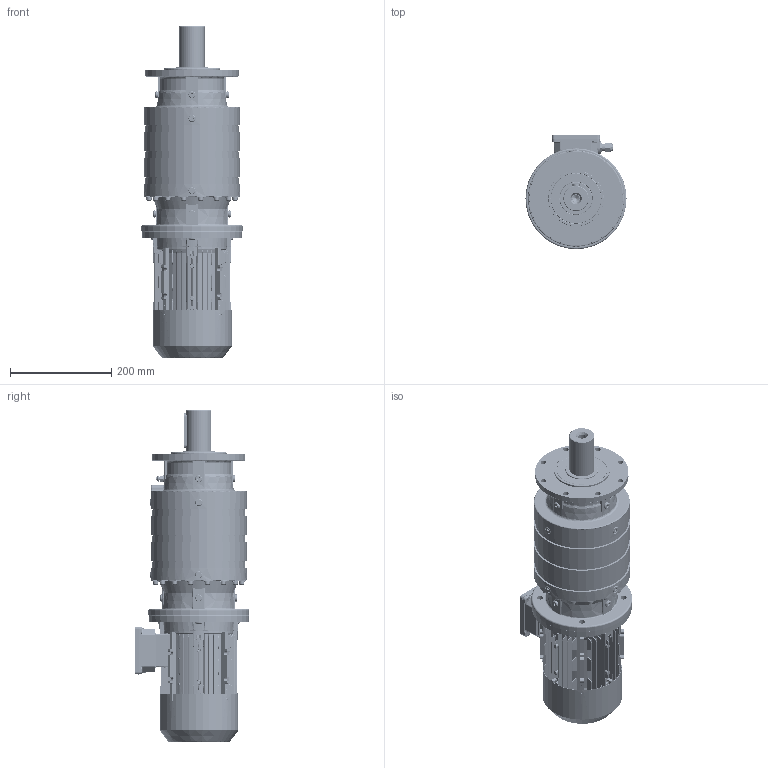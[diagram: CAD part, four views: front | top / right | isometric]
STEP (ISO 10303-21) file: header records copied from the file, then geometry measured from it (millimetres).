
FILE_DESCRIPTION (( 'STEP AP203' ), '1' );
FILE_NAME ('PVL-1103L-MX80-4.STEP', '2019-05-17T06:55:23', ( '' ), ( '' ), 'SwSTEP 2.0', 'SolidWorks 2012', '' );
FILE_SCHEMA (( 'CONFIG_CONTROL_DESIGN' ));
Products named in the file (18): MX3-80_B5; IE 3 80 Plug; PVL-1103L-MX80-4; Flansch-80_IMB5; IE3 80 terminal box cover; IE3 80 Teriminal box base; IE3 80 Cable glands; IE3 80 Gasket for T-box(base); IE3 80 Shaft; IE3 80 Shield; IE3 80 Fan cover; PNL_1103L_0_0_A08_B5_ML7A_FL1A_0_0_0_0_0_0_0_0_0_0_0_M1; FL1A; IE3 80 Casing; EK1103L; 1180B5; ML7A; P11
Assembly tree (17 placements, depth 3):
  PVL-1103L-MX80-4
    PNL_1103L_0_0_A08_B5_ML7A_FL1A_0_0_0_0_0_0_0_0_0_0_0_M1
      P11
      1180B5
      ML7A
      EK1103L
      FL1A
    MX3-80_B5
      IE3 80 Casing
      IE3 80 Shield
      IE3 80 Shaft
      IE3 80 Fan cover
      IE3 80 Teriminal box base
      IE3 80 Gasket for T-box(base)
      IE3 80 terminal box cover
      IE3 80 Cable glands
      Flansch-80_IMB5
      IE 3 80 Plug
Bounding box: 200 x 226.6 x 657 mm (x, y, z)
Volume: 8421916.5 mm3; surface area: 1125026.5 mm2
Topology: 19 solids, 19 shells, 5591 faces, 14020 edges, 8509 vertices
Faces by surface type: plane 1638, cylinder 1575, bspline 1417, cone 493, torus 356, sphere 112
Entity records: 224391 total; most frequent: CARTESIAN_POINT 100783, ORIENTED_EDGE 27678, DIRECTION 22390, EDGE_CURVE 13839, AXIS2_PLACEMENT_3D 8551, VERTEX_POINT 8493, EDGE_LOOP 6078, FACE_OUTER_BOUND 5591
